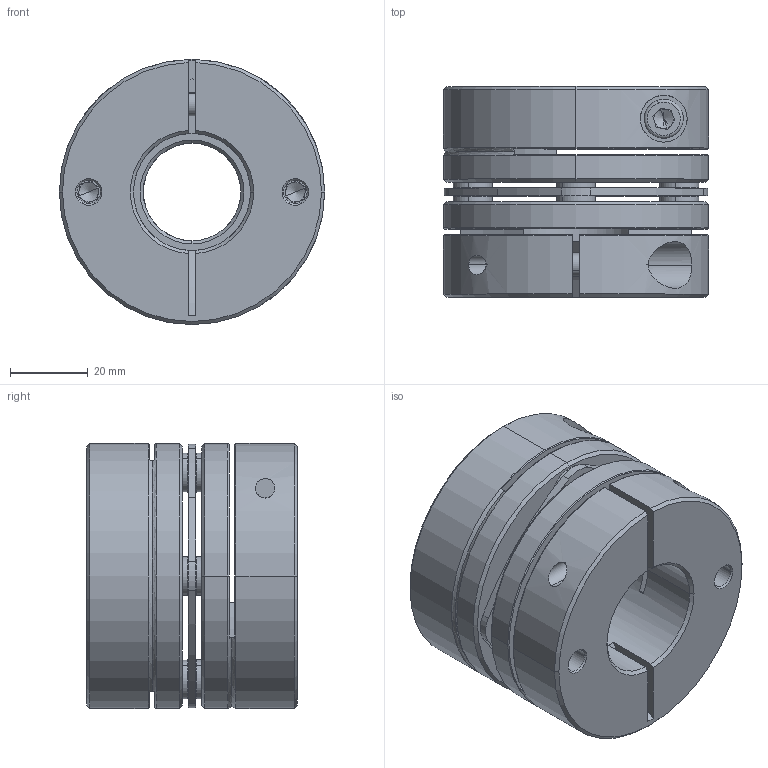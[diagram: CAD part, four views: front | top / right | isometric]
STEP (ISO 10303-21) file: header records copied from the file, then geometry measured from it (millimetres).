
FILE_DESCRIPTION (( 'STEP AP203' ), '1' );
FILE_NAME ('LD1-D68-25-30.STEP', '2021-10-26T08:02:32', ( '' ), ( '' ), 'SwSTEP 2.0', 'SolidWorks 2018', '' );
FILE_SCHEMA (( 'CONFIG_CONTROL_DESIGN' ));
Length unit declared in the file: millimetre
Products named in the file (2): LD1-D68-25-30; 錨璃101^LD1-D68
Assembly tree (1 placements, depth 2):
  LD1-D68-25-30
    錨璃101^LD1-D68
Bounding box: 68 x 54 x 68 mm (x, y, z)
Volume: 138037.4 mm3; surface area: 45608.3 mm2
Topology: 1 solids, 15 shells, 441 faces, 1047 edges, 642 vertices
Faces by surface type: cylinder 161, plane 136, cone 122, torus 22
Entity records: 13321 total; most frequent: CARTESIAN_POINT 2590, DIRECTION 2405, ORIENTED_EDGE 2062, EDGE_CURVE 1031, AXIS2_PLACEMENT_3D 977, VERTEX_POINT 642, CIRCLE 532, EDGE_LOOP 521
